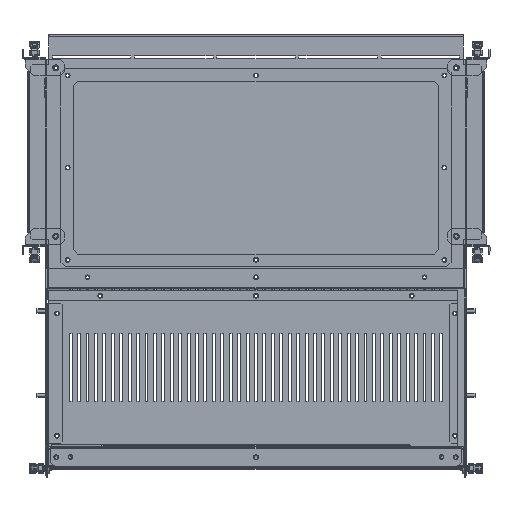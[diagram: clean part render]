
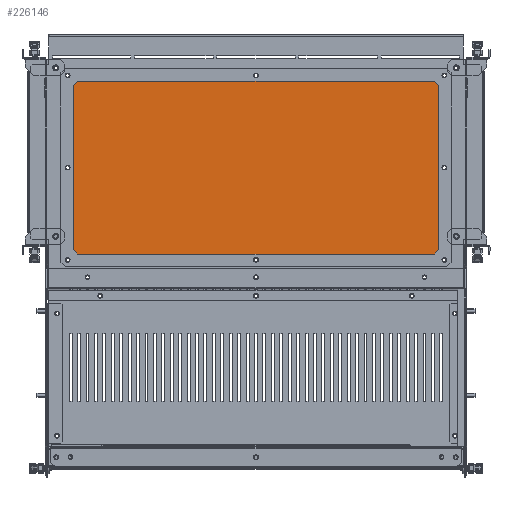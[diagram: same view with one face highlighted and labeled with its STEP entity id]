
A CAD part, top view. The second image highlights one B-rep face of the part: STEP entity #226146.
In plain terms, the highlighted planar face has unit normal (0, 0, 1).
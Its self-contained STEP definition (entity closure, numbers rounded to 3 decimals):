
#223991=CARTESIAN_POINT(' ',(-2.75,-109.5,0.));
#223992=VERTEX_POINT(' ',#223991);
#224006=CARTESIAN_POINT(' ',(0.,-109.5,0.));
#224011=DIRECTION(' ',(0.,-0.,1.));
#224016=DIRECTION(' ',(-1.,0.,0.));
#224021=AXIS2_PLACEMENT_3D(' ',#224006,#224011,#224016);
#224026=CIRCLE('',#224021,2.75);
#224031=CARTESIAN_POINT(' ',(2.75,-109.5,0.));
#224032=VERTEX_POINT(' ',#224031);
#224036=EDGE_CURVE(' ',#223992,#224032,#224026,.T.);
#225131=CARTESIAN_POINT(' ',(0.,-109.5,0.));
#225136=DIRECTION(' ',(0.,0.,1.));
#225141=DIRECTION(' ',(1.,0.,0.));
#225146=AXIS2_PLACEMENT_3D(' ',#225131,#225136,#225141);
#225151=CIRCLE('',#225146,2.75);
#225156=EDGE_CURVE(' ',#224032,#223992,#225151,.T.);
#225181=DIRECTION(' ',(-0.,-0.,1.));
#225186=CARTESIAN_POINT(' ',(231.5,-117.5,0.));
#225191=DIRECTION(' ',(0.,1.,0.));
#225196=AXIS2_PLACEMENT_3D(' ',#225186,#225181,#225191);
#225201=PLANE('NONE',#225196);
#225206=CARTESIAN_POINT(' ',(226.5,117.5,0.));
#225211=DIRECTION(' ',(-1.,0.,0.));
#225216=VECTOR(' ',#225211,1.);
#225221=LINE('',#225206,#225216);
#225226=CARTESIAN_POINT(' ',(226.5,117.5,0.));
#225227=VERTEX_POINT(' ',#225226);
#225231=CARTESIAN_POINT(' ',(-226.5,117.5,0.));
#225232=VERTEX_POINT(' ',#225231);
#225236=EDGE_CURVE(' ',#225227,#225232,#225221,.T.);
#225241=ORIENTED_EDGE(' ',*,*,#225236,.T.);
#225246=CARTESIAN_POINT(' ',(-226.5,117.5,0.));
#225251=DIRECTION(' ',(-0.707,-0.707,0.));
#225256=VECTOR(' ',#225251,1.);
#225261=LINE('',#225246,#225256);
#225266=CARTESIAN_POINT(' ',(-231.5,112.5,0.));
#225267=VERTEX_POINT(' ',#225266);
#225271=EDGE_CURVE(' ',#225232,#225267,#225261,.T.);
#225276=ORIENTED_EDGE(' ',*,*,#225271,.T.);
#225281=CARTESIAN_POINT(' ',(-231.5,112.5,0.));
#225286=DIRECTION(' ',(0.,-1.,0.));
#225291=VECTOR(' ',#225286,1.);
#225296=LINE('',#225281,#225291);
#225301=CARTESIAN_POINT(' ',(-231.5,-112.5,0.));
#225302=VERTEX_POINT(' ',#225301);
#225306=EDGE_CURVE(' ',#225267,#225302,#225296,.T.);
#225311=ORIENTED_EDGE(' ',*,*,#225306,.T.);
#225316=CARTESIAN_POINT(' ',(-231.5,-112.5,0.));
#225321=DIRECTION(' ',(0.707,-0.707,0.));
#225326=VECTOR(' ',#225321,1.);
#225331=LINE('',#225316,#225326);
#225336=CARTESIAN_POINT(' ',(-226.5,-117.5,0.));
#225337=VERTEX_POINT(' ',#225336);
#225341=EDGE_CURVE(' ',#225302,#225337,#225331,.T.);
#225346=ORIENTED_EDGE(' ',*,*,#225341,.T.);
#225351=CARTESIAN_POINT(' ',(-226.5,-117.5,0.));
#225356=DIRECTION(' ',(1.,0.,0.));
#225361=VECTOR(' ',#225356,1.);
#225366=LINE('',#225351,#225361);
#225371=CARTESIAN_POINT(' ',(226.5,-117.5,0.));
#225372=VERTEX_POINT(' ',#225371);
#225376=EDGE_CURVE(' ',#225337,#225372,#225366,.T.);
#225381=ORIENTED_EDGE(' ',*,*,#225376,.T.);
#225386=CARTESIAN_POINT(' ',(226.5,-117.5,0.));
#225391=DIRECTION(' ',(0.707,0.707,0.));
#225396=VECTOR(' ',#225391,1.);
#225401=LINE('',#225386,#225396);
#225406=CARTESIAN_POINT(' ',(231.5,-112.5,0.));
#225407=VERTEX_POINT(' ',#225406);
#225411=EDGE_CURVE(' ',#225372,#225407,#225401,.T.);
#225416=ORIENTED_EDGE(' ',*,*,#225411,.T.);
#225421=CARTESIAN_POINT(' ',(231.5,-112.5,0.));
#225426=DIRECTION(' ',(0.,1.,0.));
#225431=VECTOR(' ',#225426,1.);
#225436=LINE('',#225421,#225431);
#225441=CARTESIAN_POINT(' ',(231.5,112.5,0.));
#225442=VERTEX_POINT(' ',#225441);
#225446=EDGE_CURVE(' ',#225407,#225442,#225436,.T.);
#225451=ORIENTED_EDGE(' ',*,*,#225446,.T.);
#225456=CARTESIAN_POINT(' ',(231.5,112.5,0.));
#225461=DIRECTION(' ',(-0.707,0.707,0.));
#225466=VECTOR(' ',#225461,1.);
#225471=LINE('',#225456,#225466);
#225476=EDGE_CURVE(' ',#225442,#225227,#225471,.T.);
#225481=ORIENTED_EDGE(' ',*,*,#225476,.T.);
#225486=EDGE_LOOP(' ',(#225241,#225276,#225311,#225346,#225381,#225416,#225451,#225481));
#225491=FACE_OUTER_BOUND(' ',#225486,.T.);
#225496=ORIENTED_EDGE(' ',*,*,#225156,.F.);
#225501=ORIENTED_EDGE(' ',*,*,#224036,.F.);
#225506=EDGE_LOOP(' ',(#225496,#225501));
#225511=FACE_BOUND(' ',#225506,.T.);
#225516=CARTESIAN_POINT(' ',(-223.5,0.,0.));
#225521=DIRECTION(' ',(0.,0.,1.));
#225526=DIRECTION(' ',(1.,0.,0.));
#225531=AXIS2_PLACEMENT_3D(' ',#225516,#225521,#225526);
#225536=CIRCLE('',#225531,2.75);
#225541=CARTESIAN_POINT(' ',(-220.75,0.,0.));
#225542=VERTEX_POINT(' ',#225541);
#225546=CARTESIAN_POINT(' ',(-226.25,0.,0.));
#225547=VERTEX_POINT(' ',#225546);
#225551=EDGE_CURVE(' ',#225542,#225547,#225536,.T.);
#225556=ORIENTED_EDGE(' ',*,*,#225551,.F.);
#225561=CARTESIAN_POINT(' ',(-223.5,0.,0.));
#225566=DIRECTION(' ',(0.,-0.,1.));
#225571=DIRECTION(' ',(-1.,0.,0.));
#225576=AXIS2_PLACEMENT_3D(' ',#225561,#225566,#225571);
#225581=CIRCLE('',#225576,2.75);
#225586=EDGE_CURVE(' ',#225547,#225542,#225581,.T.);
#225591=ORIENTED_EDGE(' ',*,*,#225586,.F.);
#225596=EDGE_LOOP(' ',(#225556,#225591));
#225601=FACE_BOUND(' ',#225596,.T.);
#225606=CARTESIAN_POINT(' ',(-223.5,-109.5,0.));
#225611=DIRECTION(' ',(0.,0.,1.));
#225616=DIRECTION(' ',(1.,0.,0.));
#225621=AXIS2_PLACEMENT_3D(' ',#225606,#225611,#225616);
#225626=CIRCLE('',#225621,2.75);
#225631=CARTESIAN_POINT(' ',(-220.75,-109.5,0.));
#225632=VERTEX_POINT(' ',#225631);
#225636=CARTESIAN_POINT(' ',(-226.25,-109.5,0.));
#225637=VERTEX_POINT(' ',#225636);
#225641=EDGE_CURVE(' ',#225632,#225637,#225626,.T.);
#225646=ORIENTED_EDGE(' ',*,*,#225641,.F.);
#225651=CARTESIAN_POINT(' ',(-223.5,-109.5,0.));
#225656=DIRECTION(' ',(0.,-0.,1.));
#225661=DIRECTION(' ',(-1.,0.,0.));
#225666=AXIS2_PLACEMENT_3D(' ',#225651,#225656,#225661);
#225671=CIRCLE('',#225666,2.75);
#225676=EDGE_CURVE(' ',#225637,#225632,#225671,.T.);
#225681=ORIENTED_EDGE(' ',*,*,#225676,.F.);
#225686=EDGE_LOOP(' ',(#225646,#225681));
#225691=FACE_BOUND(' ',#225686,.T.);
#225696=CARTESIAN_POINT(' ',(223.5,-109.5,0.));
#225701=DIRECTION(' ',(0.,0.,1.));
#225706=DIRECTION(' ',(1.,0.,0.));
#225711=AXIS2_PLACEMENT_3D(' ',#225696,#225701,#225706);
#225716=CIRCLE('',#225711,2.75);
#225721=CARTESIAN_POINT(' ',(226.25,-109.5,0.));
#225722=VERTEX_POINT(' ',#225721);
#225726=CARTESIAN_POINT(' ',(220.75,-109.5,0.));
#225727=VERTEX_POINT(' ',#225726);
#225731=EDGE_CURVE(' ',#225722,#225727,#225716,.T.);
#225736=ORIENTED_EDGE(' ',*,*,#225731,.F.);
#225741=CARTESIAN_POINT(' ',(223.5,-109.5,0.));
#225746=DIRECTION(' ',(0.,-0.,1.));
#225751=DIRECTION(' ',(-1.,0.,0.));
#225756=AXIS2_PLACEMENT_3D(' ',#225741,#225746,#225751);
#225761=CIRCLE('',#225756,2.75);
#225766=EDGE_CURVE(' ',#225727,#225722,#225761,.T.);
#225771=ORIENTED_EDGE(' ',*,*,#225766,.F.);
#225776=EDGE_LOOP(' ',(#225736,#225771));
#225781=FACE_BOUND(' ',#225776,.T.);
#225786=CARTESIAN_POINT(' ',(223.5,109.5,0.));
#225791=DIRECTION(' ',(0.,0.,1.));
#225796=DIRECTION(' ',(1.,0.,0.));
#225801=AXIS2_PLACEMENT_3D(' ',#225786,#225791,#225796);
#225806=CIRCLE('',#225801,2.75);
#225811=CARTESIAN_POINT(' ',(226.25,109.5,0.));
#225812=VERTEX_POINT(' ',#225811);
#225816=CARTESIAN_POINT(' ',(220.75,109.5,0.));
#225817=VERTEX_POINT(' ',#225816);
#225821=EDGE_CURVE(' ',#225812,#225817,#225806,.T.);
#225826=ORIENTED_EDGE(' ',*,*,#225821,.F.);
#225831=CARTESIAN_POINT(' ',(223.5,109.5,0.));
#225836=DIRECTION(' ',(0.,-0.,1.));
#225841=DIRECTION(' ',(-1.,0.,0.));
#225846=AXIS2_PLACEMENT_3D(' ',#225831,#225836,#225841);
#225851=CIRCLE('',#225846,2.75);
#225856=EDGE_CURVE(' ',#225817,#225812,#225851,.T.);
#225861=ORIENTED_EDGE(' ',*,*,#225856,.F.);
#225866=EDGE_LOOP(' ',(#225826,#225861));
#225871=FACE_BOUND(' ',#225866,.T.);
#225876=CARTESIAN_POINT(' ',(0.,109.5,0.));
#225881=DIRECTION(' ',(0.,0.,1.));
#225886=DIRECTION(' ',(1.,0.,0.));
#225891=AXIS2_PLACEMENT_3D(' ',#225876,#225881,#225886);
#225896=CIRCLE('',#225891,2.75);
#225901=CARTESIAN_POINT(' ',(2.75,109.5,0.));
#225902=VERTEX_POINT(' ',#225901);
#225906=CARTESIAN_POINT(' ',(-2.75,109.5,0.));
#225907=VERTEX_POINT(' ',#225906);
#225911=EDGE_CURVE(' ',#225902,#225907,#225896,.T.);
#225916=ORIENTED_EDGE(' ',*,*,#225911,.F.);
#225921=CARTESIAN_POINT(' ',(0.,109.5,0.));
#225926=DIRECTION(' ',(0.,-0.,1.));
#225931=DIRECTION(' ',(-1.,0.,0.));
#225936=AXIS2_PLACEMENT_3D(' ',#225921,#225926,#225931);
#225941=CIRCLE('',#225936,2.75);
#225946=EDGE_CURVE(' ',#225907,#225902,#225941,.T.);
#225951=ORIENTED_EDGE(' ',*,*,#225946,.F.);
#225956=EDGE_LOOP(' ',(#225916,#225951));
#225961=FACE_BOUND(' ',#225956,.T.);
#225966=CARTESIAN_POINT(' ',(-223.5,109.5,0.));
#225971=DIRECTION(' ',(0.,0.,1.));
#225976=DIRECTION(' ',(1.,0.,0.));
#225981=AXIS2_PLACEMENT_3D(' ',#225966,#225971,#225976);
#225986=CIRCLE('',#225981,2.75);
#225991=CARTESIAN_POINT(' ',(-220.75,109.5,0.));
#225992=VERTEX_POINT(' ',#225991);
#225996=CARTESIAN_POINT(' ',(-226.25,109.5,0.));
#225997=VERTEX_POINT(' ',#225996);
#226001=EDGE_CURVE(' ',#225992,#225997,#225986,.T.);
#226006=ORIENTED_EDGE(' ',*,*,#226001,.F.);
#226011=CARTESIAN_POINT(' ',(-223.5,109.5,0.));
#226016=DIRECTION(' ',(0.,-0.,1.));
#226021=DIRECTION(' ',(-1.,0.,0.));
#226026=AXIS2_PLACEMENT_3D(' ',#226011,#226016,#226021);
#226031=CIRCLE('',#226026,2.75);
#226036=EDGE_CURVE(' ',#225997,#225992,#226031,.T.);
#226041=ORIENTED_EDGE(' ',*,*,#226036,.F.);
#226046=EDGE_LOOP(' ',(#226006,#226041));
#226051=FACE_BOUND(' ',#226046,.T.);
#226056=CARTESIAN_POINT(' ',(223.5,0.,0.));
#226061=DIRECTION(' ',(0.,0.,1.));
#226066=DIRECTION(' ',(1.,0.,0.));
#226071=AXIS2_PLACEMENT_3D(' ',#226056,#226061,#226066);
#226076=CIRCLE('',#226071,2.75);
#226081=CARTESIAN_POINT(' ',(226.25,0.,0.));
#226082=VERTEX_POINT(' ',#226081);
#226086=CARTESIAN_POINT(' ',(220.75,0.,0.));
#226087=VERTEX_POINT(' ',#226086);
#226091=EDGE_CURVE(' ',#226082,#226087,#226076,.T.);
#226096=ORIENTED_EDGE(' ',*,*,#226091,.F.);
#226101=CARTESIAN_POINT(' ',(223.5,0.,0.));
#226106=DIRECTION(' ',(0.,-0.,1.));
#226111=DIRECTION(' ',(-1.,0.,0.));
#226116=AXIS2_PLACEMENT_3D(' ',#226101,#226106,#226111);
#226121=CIRCLE('',#226116,2.75);
#226126=EDGE_CURVE(' ',#226087,#226082,#226121,.T.);
#226131=ORIENTED_EDGE(' ',*,*,#226126,.F.);
#226136=EDGE_LOOP(' ',(#226096,#226131));
#226141=FACE_BOUND(' ',#226136,.T.);
#226146=ADVANCED_FACE('NONE',(#225491,#225511,#225601,#225691,#225781,#225871,#225961,#226051,#226141),#225201,.T.);
